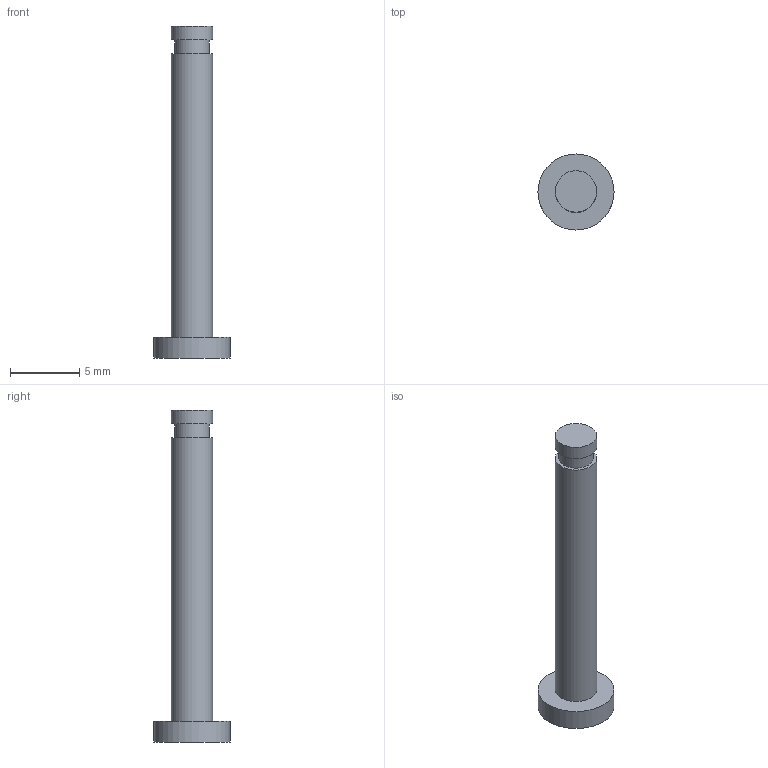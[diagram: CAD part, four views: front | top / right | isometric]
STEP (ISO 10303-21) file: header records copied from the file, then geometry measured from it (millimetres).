
FILE_DESCRIPTION(('Open CASCADE Model'),'2;1');
FILE_NAME('SCZ-PIN3-L24','2026-11-15T22:39:12',('Author'),( 'Open CASCADE'),'Open CASCADE STEP processor 8.0','build123d', 'Unknown');
FILE_SCHEMA(('AUTOMOTIVE_DESIGN { 1 0 10303 214 1 1 1 1 }'));
Length unit declared in the file: millimetre
Products named in the file (1): SCZ-PIN3-L24
Bounding box: 5.5 x 5.5 x 24 mm (x, y, z)
Volume: 192.5 mm3; surface area: 288.2 mm2
Topology: 1 solids, 1 shells, 9 faces, 12 edges, 8 vertices
Faces by surface type: plane 5, cylinder 4
Full cylindrical faces by diameter (mm): 2.5 x1, 3 x2, 5.5 x1
Entity records: 360 total; most frequent: DIRECTION 64, CARTESIAN_POINT 54, ORIENTED_EDGE 24, PCURVE 24, DEFINITIONAL_REPRESENTATION 24, LINE 20, VECTOR 20, AXIS2_PLACEMENT_3D 18
